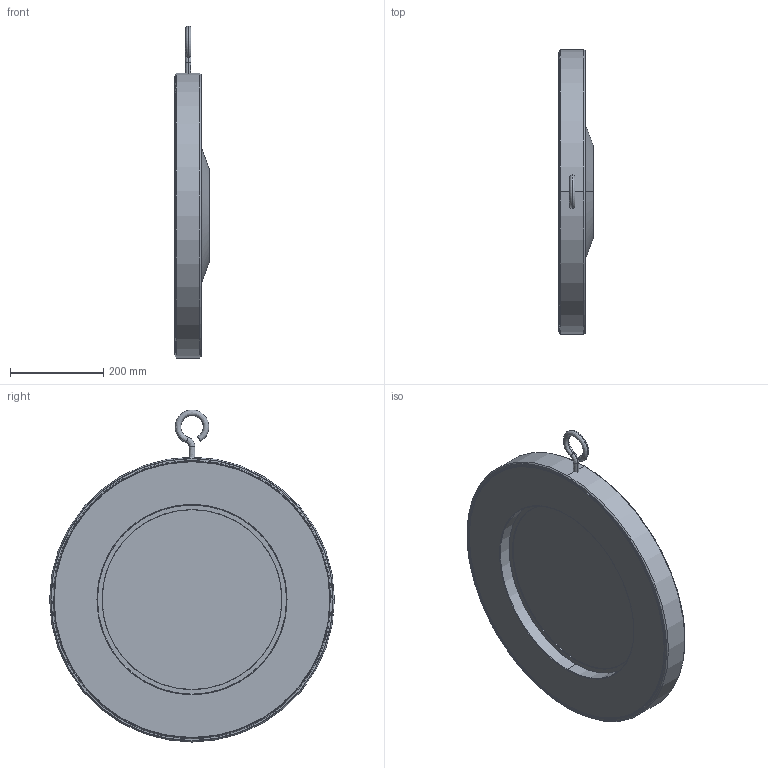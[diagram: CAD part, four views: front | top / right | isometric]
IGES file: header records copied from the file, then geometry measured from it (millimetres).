
Start section: SolidWorks IGES file using analytic representation for surfaces
Global section: file name: C:\Users\Administrator\Desktop\temp\0.IGS; native system: SolidWorks 2015; preprocessor: SolidWorks 2015; author: Administrator; date: 170404.093036; units: millimetre
Bounding box: 74.5 x 610 x 710.99 mm (x, y, z)
Surface area: 903268.9 mm2 (no closed solid volume)
Topology: 0 solids, 0 shells, 184 faces, 2834 edges, 2832 vertices
Faces by surface type: bspline 112, revolution 72
